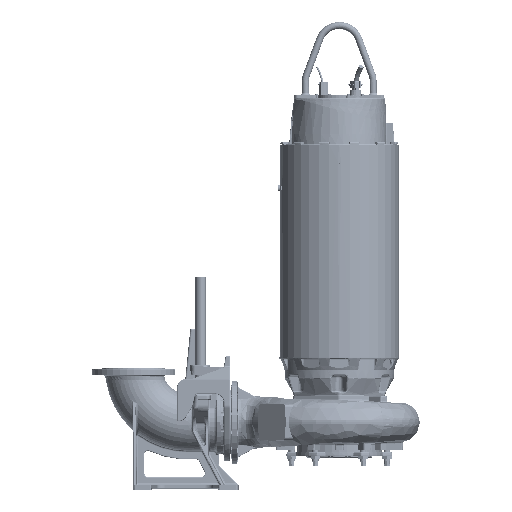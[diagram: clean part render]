
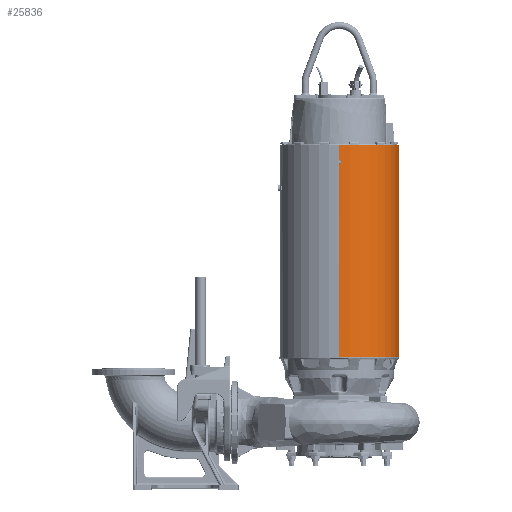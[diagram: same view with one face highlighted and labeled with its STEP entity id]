
A CAD part, top view. The second image highlights one B-rep face of the part: STEP entity #25836.
In plain terms, the highlighted cylindrical face has radius 344 mm (diameter 688 mm), a partial arc.
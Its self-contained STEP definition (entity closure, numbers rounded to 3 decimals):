
#13688 = VERTEX_POINT ( 'NONE', #184800 ) ;
#15952 = FACE_OUTER_BOUND ( 'NONE', #57384, .T. ) ;
#18347 = CARTESIAN_POINT ( 'NONE',  ( 0., 0., 0. ) ) ;
#21578 = ORIENTED_EDGE ( 'NONE', *, *, #303476, .T. ) ;
#25836 = ADVANCED_FACE ( 'NONE', ( #15952 ), #202016, .T. ) ;
#46595 = CARTESIAN_POINT ( 'NONE',  ( 6.334, 1112.313, 343.956 ) ) ;
#57384 = EDGE_LOOP ( 'NONE', ( #320185, #262736, #276546, #62550, #21578, #78057, #162630, #298712, #95407, #130892, #288084, #161279 ) ) ;
#60345 = CARTESIAN_POINT ( 'NONE',  ( 0., -20., 0. ) ) ;
#62550 = ORIENTED_EDGE ( 'NONE', *, *, #197728, .T. ) ;
#68205 = CIRCLE ( 'NONE', #181704, 344. ) ;
#72088 = VECTOR ( 'NONE', #172847, 1000. ) ;
#74598 = EDGE_CURVE ( 'NONE', #194871, #336665, #355036, .T. ) ;
#76317 = CARTESIAN_POINT ( 'NONE',  ( 9.5, 1099.515, 343.869 ) ) ;
#78057 = ORIENTED_EDGE ( 'NONE', *, *, #269127, .T. ) ;
#80843 = LINE ( 'NONE', #255188, #72088 ) ;
#83612 = EDGE_CURVE ( 'NONE', #336665, #13688, #189470, .T. ) ;
#88210 = DIRECTION ( 'NONE',  ( 1., 0., 0. ) ) ;
#90919 = LINE ( 'NONE', #91773, #238101 ) ;
#91773 = CARTESIAN_POINT ( 'NONE',  ( 0., 0., 344. ) ) ;
#93661 = CARTESIAN_POINT ( 'NONE',  ( 9.5, 1345.349, -343.869 ) ) ;
#95407 = ORIENTED_EDGE ( 'NONE', *, *, #104370, .F. ) ;
#101357 = CARTESIAN_POINT ( 'NONE',  ( 9.5, 1110.485, -343.869 ) ) ;
#104370 = EDGE_CURVE ( 'NONE', #13688, #120293, #192060, .T. ) ;
#106685 = CARTESIAN_POINT ( 'NONE',  ( 0., 1094.03, -344. ) ) ;
#110332 = VERTEX_POINT ( 'NONE', #124474 ) ;
#111044 = AXIS2_PLACEMENT_3D ( 'NONE', #60345, #253896, #88210 ) ;
#116721 = EDGE_CURVE ( 'NONE', #155600, #110332, #249518, .T. ) ;
#119135 = CARTESIAN_POINT ( 'NONE',  ( 0., 1094.03, 344. ) ) ;
#120293 = VERTEX_POINT ( 'NONE', #106685 ) ;
#120508 = LINE ( 'NONE', #352792, #332648 ) ;
#123177 = CARTESIAN_POINT ( 'NONE',  ( 9.5, 1345.349, 343.869 ) ) ;
#124474 = CARTESIAN_POINT ( 'NONE',  ( 0., 1115.97, 344. ) ) ;
#130811 = CARTESIAN_POINT ( 'NONE',  ( 0., 1205., 0. ) ) ;
#130892 = ORIENTED_EDGE ( 'NONE', *, *, #83612, .F. ) ;
#139853 = EDGE_CURVE ( 'NONE', #265423, #194871, #80843, .T. ) ;
#140291 = CARTESIAN_POINT ( 'NONE',  ( 0., 1094.03, 344. ) ) ;
#146070 = AXIS2_PLACEMENT_3D ( 'NONE', #18347, #352062, #325491 ) ;
#146089 = CARTESIAN_POINT ( 'NONE',  ( 6.334, 1112.313, -343.956 ) ) ;
#151113 = EDGE_CURVE ( 'NONE', #265423, #155600, #68205, .T. ) ;
#155600 = VERTEX_POINT ( 'NONE', #171148 ) ;
#156739 = CARTESIAN_POINT ( 'NONE',  ( 3.167, 1114.141, 344. ) ) ;
#158652 = DIRECTION ( 'NONE',  ( 0., 0., -1. ) ) ;
#161279 = ORIENTED_EDGE ( 'NONE', *, *, #139853, .F. ) ;
#161780 = DIRECTION ( 'NONE',  ( 0., -1., 0. ) ) ;
#162212 = VERTEX_POINT ( 'NONE', #310417 ) ;
#162630 = ORIENTED_EDGE ( 'NONE', *, *, #178970, .F. ) ;
#165783 = CARTESIAN_POINT ( 'NONE',  ( 9.5, 1099.515, 343.869 ) ) ;
#168836 = CARTESIAN_POINT ( 'NONE',  ( 0., 1094.03, -344. ) ) ;
#171148 = CARTESIAN_POINT ( 'NONE',  ( 0., 1205., 344. ) ) ;
#172847 = DIRECTION ( 'NONE',  ( 0., -1., 0. ) ) ;
#175567 = CARTESIAN_POINT ( 'NONE',  ( 9.5, 1110.485, 343.869 ) ) ;
#175753 = VECTOR ( 'NONE', #312245, 1000. ) ;
#178970 = EDGE_CURVE ( 'NONE', #162212, #183393, #204242, .T. ) ;
#180623 = VECTOR ( 'NONE', #232811, 1000. ) ;
#181704 = AXIS2_PLACEMENT_3D ( 'NONE', #130811, #324250, #158652 ) ;
#183393 = VERTEX_POINT ( 'NONE', #183918 ) ;
#183918 = CARTESIAN_POINT ( 'NONE',  ( 0., -20., 344. ) ) ;
#184800 = CARTESIAN_POINT ( 'NONE',  ( 9.5, 1099.515, -343.869 ) ) ;
#185943 = CARTESIAN_POINT ( 'NONE',  ( 0., 0., 344. ) ) ;
#187207 = VERTEX_POINT ( 'NONE', #165783 ) ;
#189470 = LINE ( 'NONE', #93661, #180623 ) ;
#192060 =( BOUNDED_CURVE ( )  B_SPLINE_CURVE ( 3, ( #278925, #306695, #334564, #168836 ),
 .UNSPECIFIED., .F., .F. ) 
 B_SPLINE_CURVE_WITH_KNOTS ( ( 4, 4 ),
 ( 1.543, 1.571 ),
 .UNSPECIFIED. ) 
 CURVE ( )  GEOMETRIC_REPRESENTATION_ITEM ( )  RATIONAL_B_SPLINE_CURVE ( ( 1., 1., 1., 1. ) ) 
 REPRESENTATION_ITEM ( '' )  );
#194871 = VERTEX_POINT ( 'NONE', #348622 ) ;
#197317 = VERTEX_POINT ( 'NONE', #175567 ) ;
#197728 = EDGE_CURVE ( 'NONE', #197317, #187207, #207563, .T. ) ;
#201117 =( BOUNDED_CURVE ( )  B_SPLINE_CURVE ( 3, ( #76317, #250327, #305908, #140291 ),
 .UNSPECIFIED., .F., .F. ) 
 B_SPLINE_CURVE_WITH_KNOTS ( ( 4, 4 ),
 ( 1.543, 1.571 ),
 .UNSPECIFIED. ) 
 CURVE ( )  GEOMETRIC_REPRESENTATION_ITEM ( )  RATIONAL_B_SPLINE_CURVE ( ( 1., 1., 1., 1. ) ) 
 REPRESENTATION_ITEM ( '' )  );
#202016 = CYLINDRICAL_SURFACE ( 'NONE', #146070, 344. ) ;
#204242 = CIRCLE ( 'NONE', #111044, 344. ) ;
#207563 = LINE ( 'NONE', #123177, #281090 ) ;
#232606 =( BOUNDED_CURVE ( )  B_SPLINE_CURVE ( 3, ( #322342, #156739, #46595, #240157 ),
 .UNSPECIFIED., .F., .F. ) 
 B_SPLINE_CURVE_WITH_KNOTS ( ( 4, 4 ),
 ( 1.571, 1.598 ),
 .UNSPECIFIED. ) 
 CURVE ( )  GEOMETRIC_REPRESENTATION_ITEM ( )  RATIONAL_B_SPLINE_CURVE ( ( 1., 1., 1., 1. ) ) 
 REPRESENTATION_ITEM ( '' )  );
#232811 = DIRECTION ( 'NONE',  ( 0., -1., 0. ) ) ;
#235805 = EDGE_CURVE ( 'NONE', #110332, #197317, #232606, .T. ) ;
#238101 = VECTOR ( 'NONE', #285257, 1000. ) ;
#240157 = CARTESIAN_POINT ( 'NONE',  ( 9.5, 1110.485, 343.869 ) ) ;
#243914 = VERTEX_POINT ( 'NONE', #119135 ) ;
#249518 = LINE ( 'NONE', #185943, #175753 ) ;
#249978 = EDGE_CURVE ( 'NONE', #120293, #162212, #120508, .T. ) ;
#250327 = CARTESIAN_POINT ( 'NONE',  ( 6.334, 1097.687, 343.956 ) ) ;
#252076 = CARTESIAN_POINT ( 'NONE',  ( 0., 1115.97, -344. ) ) ;
#253896 = DIRECTION ( 'NONE',  ( 0., -1., 0. ) ) ;
#255188 = CARTESIAN_POINT ( 'NONE',  ( 0., 0., -344. ) ) ;
#262736 = ORIENTED_EDGE ( 'NONE', *, *, #116721, .T. ) ;
#265423 = VERTEX_POINT ( 'NONE', #277625 ) ;
#269127 = EDGE_CURVE ( 'NONE', #243914, #183393, #90919, .T. ) ;
#276546 = ORIENTED_EDGE ( 'NONE', *, *, #235805, .T. ) ;
#277625 = CARTESIAN_POINT ( 'NONE',  ( 0., 1205., -344. ) ) ;
#278925 = CARTESIAN_POINT ( 'NONE',  ( 9.5, 1099.515, -343.869 ) ) ;
#281090 = VECTOR ( 'NONE', #335061, 1000. ) ;
#285257 = DIRECTION ( 'NONE',  ( 0., -1., 0. ) ) ;
#288084 = ORIENTED_EDGE ( 'NONE', *, *, #74598, .F. ) ;
#298712 = ORIENTED_EDGE ( 'NONE', *, *, #249978, .F. ) ;
#303476 = EDGE_CURVE ( 'NONE', #187207, #243914, #201117, .T. ) ;
#305908 = CARTESIAN_POINT ( 'NONE',  ( 3.167, 1095.859, 344. ) ) ;
#306695 = CARTESIAN_POINT ( 'NONE',  ( 6.334, 1097.687, -343.956 ) ) ;
#310417 = CARTESIAN_POINT ( 'NONE',  ( 0., -20., -344. ) ) ;
#311737 = CARTESIAN_POINT ( 'NONE',  ( 3.167, 1114.141, -344. ) ) ;
#312245 = DIRECTION ( 'NONE',  ( 0., -1., 0. ) ) ;
#320185 = ORIENTED_EDGE ( 'NONE', *, *, #151113, .T. ) ;
#322342 = CARTESIAN_POINT ( 'NONE',  ( 0., 1115.97, 344. ) ) ;
#324250 = DIRECTION ( 'NONE',  ( 0., -1., 0. ) ) ;
#325491 = DIRECTION ( 'NONE',  ( 0., 0., -1. ) ) ;
#332648 = VECTOR ( 'NONE', #161780, 1000. ) ;
#334564 = CARTESIAN_POINT ( 'NONE',  ( 3.167, 1095.859, -344. ) ) ;
#335061 = DIRECTION ( 'NONE',  ( 0., -1., 0. ) ) ;
#336665 = VERTEX_POINT ( 'NONE', #101357 ) ;
#339512 = CARTESIAN_POINT ( 'NONE',  ( 9.5, 1110.485, -343.869 ) ) ;
#348622 = CARTESIAN_POINT ( 'NONE',  ( 0., 1115.97, -344. ) ) ;
#352062 = DIRECTION ( 'NONE',  ( 0., -1., 0. ) ) ;
#352792 = CARTESIAN_POINT ( 'NONE',  ( 0., 0., -344. ) ) ;
#355036 =( BOUNDED_CURVE ( )  B_SPLINE_CURVE ( 3, ( #252076, #311737, #146089, #339512 ),
 .UNSPECIFIED., .F., .F. ) 
 B_SPLINE_CURVE_WITH_KNOTS ( ( 4, 4 ),
 ( 1.571, 1.598 ),
 .UNSPECIFIED. ) 
 CURVE ( )  GEOMETRIC_REPRESENTATION_ITEM ( )  RATIONAL_B_SPLINE_CURVE ( ( 1., 1., 1., 1. ) ) 
 REPRESENTATION_ITEM ( '' )  );
